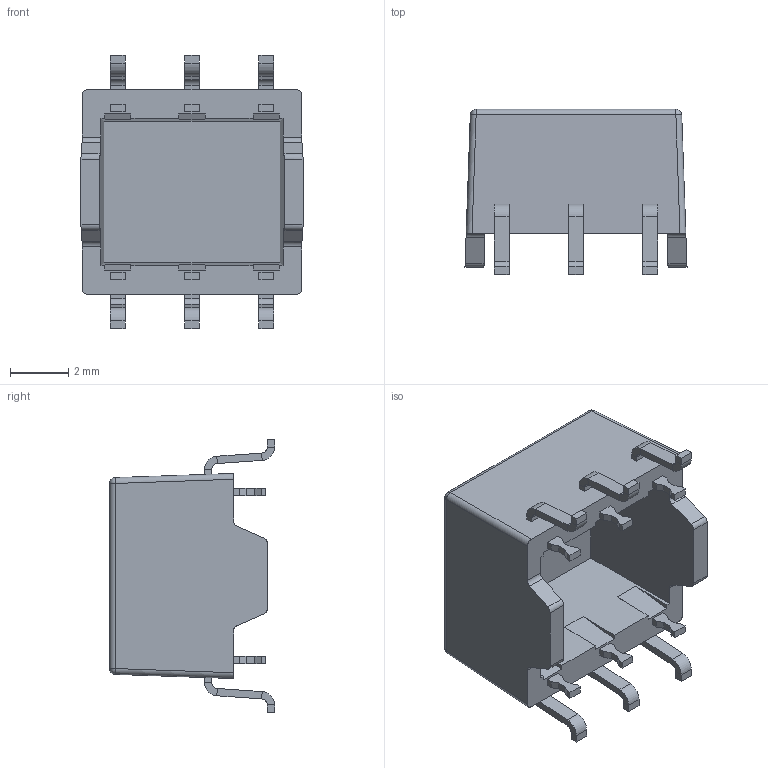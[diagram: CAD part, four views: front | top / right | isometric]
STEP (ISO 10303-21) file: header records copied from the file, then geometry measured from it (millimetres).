
FILE_DESCRIPTION (( 'STEP AP203' ), '1' );
FILE_NAME ('S06Axx.STEP', '2025-07-02T09:54:03', ( '' ), ( '' ), 'SwSTEP 2.0', 'SolidWorks 2022', '' );
FILE_SCHEMA (( 'CONFIG_CONTROL_DESIGN' ));
Length unit declared in the file: millimetre
Products named in the file (3): S06Axx; S06Axx Case; S06Axx Pin
Assembly tree (7 placements, depth 2):
  S06Axx
    S06Axx Case
    S06Axx Pin  x6
Bounding box: 7.6 x 5.65 x 9.35 mm (x, y, z)
Volume: 109.2 mm3; surface area: 374.3 mm2
Topology: 7 solids, 7 shells, 335 faces, 804 edges, 484 vertices
Faces by surface type: plane 265, cylinder 66, sphere 4
Entity records: 4891 total; most frequent: CARTESIAN_POINT 843, ORIENTED_EDGE 768, DIRECTION 726, EDGE_CURVE 384, LINE 312, VECTOR 312, VERTEX_POINT 244, AXIS2_PLACEMENT_3D 207
